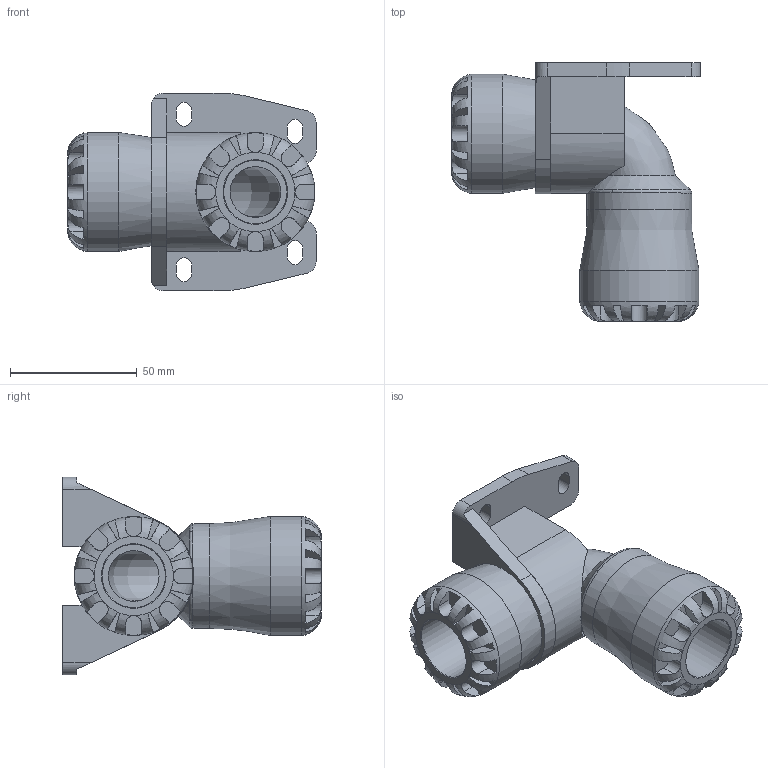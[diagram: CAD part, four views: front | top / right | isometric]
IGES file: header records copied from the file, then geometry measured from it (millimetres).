
Global section: file name: 1075_.ipt; native system: Autodesk Inventor 2015; preprocessor: unknown; author: KIM; date: 20180712.112144; units: millimetre
Bounding box: 98 x 102 x 78 mm (x, y, z)
Volume: 153471.8 mm3; surface area: 50928.7 mm2
Topology: 3 solids, 3 shells, 207 faces, 552 edges, 354 vertices
Faces by surface type: plane 134, revolution 38, cylinder 30, bspline 5
Full cylindrical faces by diameter (mm): 41.36 x2, 47 x2
